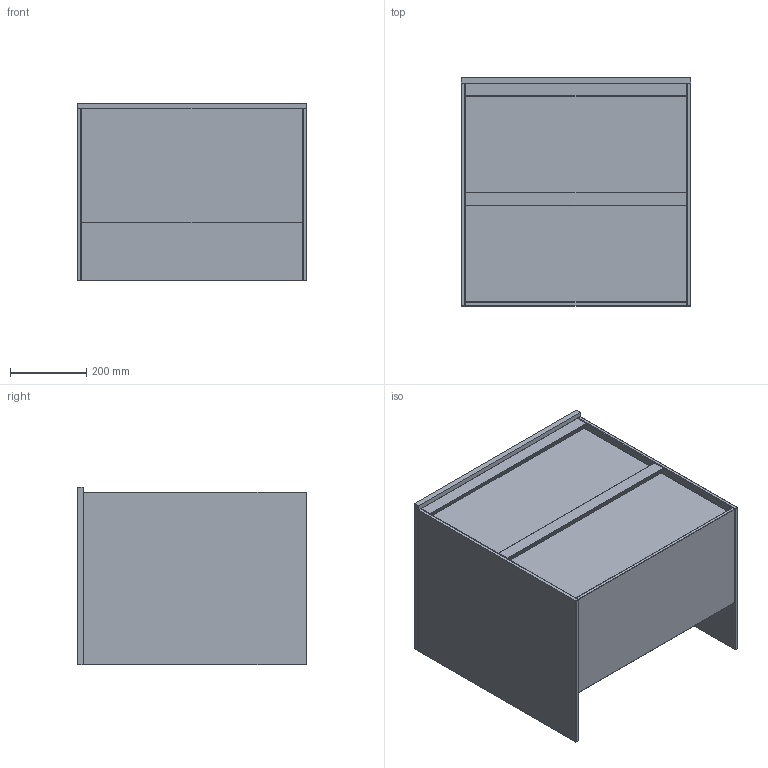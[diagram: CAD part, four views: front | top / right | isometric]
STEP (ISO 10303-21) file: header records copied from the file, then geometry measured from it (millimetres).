
FILE_DESCRIPTION (( 'STEP AP203' ), '1' );
FILE_NAME ('H2-Kommod-60-shell-drawing.STEP', '2024-10-23T06:38:52', ( '' ), ( '' ), 'SwSTEP 2.0', 'SolidWorks 2024', '' );
FILE_SCHEMA (( 'CONFIG_CONTROL_DESIGN' ));
Length unit declared in the file: millimetre
Products named in the file (6): H2-Kommod-60-shell-drawing; Stenskiva-600x465x15; Botten-580x300x10; lådfront-580x287x10; Sida-584x452x10; handtag-580x35x20
Assembly tree (8 placements, depth 2):
  H2-Kommod-60-shell-drawing
    Botten-580x300x10
    Sida-584x452x10  x2
    handtag-580x35x20  x2
    lådfront-580x287x10  x2
    Stenskiva-600x465x15
Bounding box: 600 x 599 x 465 mm (x, y, z)
Volume: 15224146.9 mm3; surface area: 2863666.6 mm2
Topology: 8 solids, 8 shells, 188 faces, 404 edges, 176 vertices
Faces by surface type: cylinder 84, sphere 56, plane 48
Entity records: 3364 total; most frequent: DIRECTION 542, CARTESIAN_POINT 429, ORIENTED_EDGE 408, AXIS2_PLACEMENT_3D 217, EDGE_CURVE 204, ADVANCED_FACE 110, FACE_OUTER_BOUND 110, EDGE_LOOP 110
